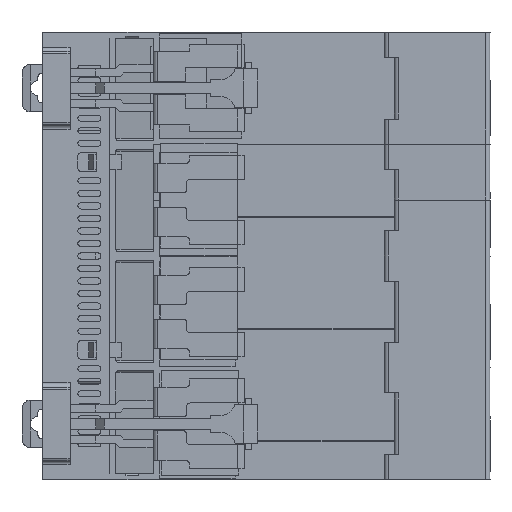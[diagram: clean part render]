
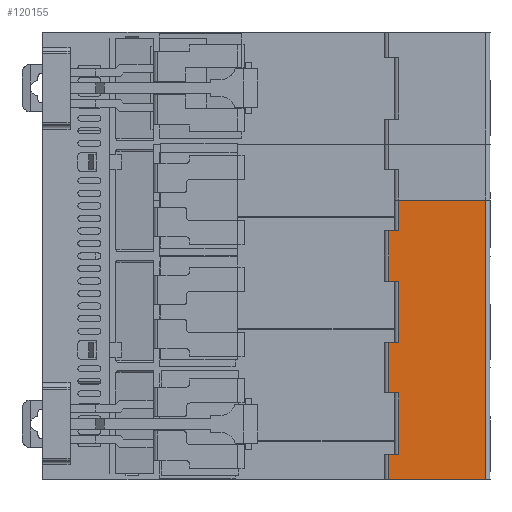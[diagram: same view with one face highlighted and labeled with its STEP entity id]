
A CAD part, front view. The second image highlights one B-rep face of the part: STEP entity #120155.
In plain terms, the highlighted planar face has unit normal (0, -1, 0).
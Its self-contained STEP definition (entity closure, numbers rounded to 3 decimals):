
#7026=DIRECTION('',(1.,0.,0.));
#7027=VECTOR('',#7026,2.4);
#7028=CARTESIAN_POINT('',(83.967,0.,-47.6));
#7029=LINE('',#7028,#7027);
#7030=DIRECTION('',(1.,0.,0.));
#7031=VECTOR('',#7030,20.9);
#7032=CARTESIAN_POINT('',(86.367,0.,-40.2));
#7033=LINE('',#7032,#7031);
#7034=DIRECTION('',(0.,0.,-1.));
#7035=VECTOR('',#7034,67.);
#7036=CARTESIAN_POINT('',(107.267,0.,-40.2));
#7037=LINE('',#7036,#7035);
#7038=DIRECTION('',(1.,0.,0.));
#7039=VECTOR('',#7038,2.4);
#7040=CARTESIAN_POINT('',(83.967,0.,-101.2));
#7041=LINE('',#7040,#7039);
#7042=DIRECTION('',(-1.,0.,0.));
#7043=VECTOR('',#7042,2.4);
#7044=CARTESIAN_POINT('',(86.367,0.,-86.4));
#7045=LINE('',#7044,#7043);
#7046=DIRECTION('',(1.,0.,0.));
#7047=VECTOR('',#7046,2.4);
#7048=CARTESIAN_POINT('',(83.967,0.,-74.4));
#7049=LINE('',#7048,#7047);
#7050=DIRECTION('',(-1.,0.,0.));
#7051=VECTOR('',#7050,2.4);
#7052=CARTESIAN_POINT('',(86.367,0.,-59.6));
#7053=LINE('',#7052,#7051);
#7054=DIRECTION('',(0.,0.,-1.));
#7055=VECTOR('',#7054,12.);
#7056=CARTESIAN_POINT('',(83.967,0.,-47.6));
#7057=LINE('',#7056,#7055);
#9094=DIRECTION('',(1.,0.,0.));
#9095=VECTOR('',#9094,23.3);
#9096=CARTESIAN_POINT('',(83.967,0.,-107.2));
#9097=LINE('',#9096,#9095);
#9197=DIRECTION('',(0.,0.,-1.));
#9198=VECTOR('',#9197,14.8);
#9199=CARTESIAN_POINT('',(86.367,0.,-86.4));
#9200=LINE('',#9199,#9198);
#9237=DIRECTION('',(0.,0.,-1.));
#9238=VECTOR('',#9237,14.8);
#9239=CARTESIAN_POINT('',(86.367,0.,-59.6));
#9240=LINE('',#9239,#9238);
#9255=DIRECTION('',(0.,0.,-1.));
#9256=VECTOR('',#9255,12.);
#9257=CARTESIAN_POINT('',(83.967,0.,-74.4));
#9258=LINE('',#9257,#9256);
#9275=DIRECTION('',(0.,0.,-1.));
#9276=VECTOR('',#9275,6.);
#9277=CARTESIAN_POINT('',(83.967,0.,-101.2));
#9278=LINE('',#9277,#9276);
#74659=DIRECTION('',(0.,0.,-1.));
#74660=VECTOR('',#74659,7.4);
#74661=CARTESIAN_POINT('',(86.367,0.,-40.2));
#74662=LINE('',#74661,#74660);
#98654=CARTESIAN_POINT('',(86.367,0.,-101.2));
#98655=VERTEX_POINT('',#98654);
#98656=CARTESIAN_POINT('',(83.967,0.,-107.2));
#98657=CARTESIAN_POINT('',(107.267,0.,-107.2));
#98658=VERTEX_POINT('',#98656);
#98659=VERTEX_POINT('',#98657);
#98660=CARTESIAN_POINT('',(83.967,0.,-101.2));
#98661=VERTEX_POINT('',#98660);
#102671=CARTESIAN_POINT('',(86.367,0.,-86.4));
#102672=CARTESIAN_POINT('',(83.967,0.,-86.4));
#102673=VERTEX_POINT('',#102671);
#102674=VERTEX_POINT('',#102672);
#104146=CARTESIAN_POINT('',(83.967,0.,-74.4));
#104147=CARTESIAN_POINT('',(86.367,0.,-74.4));
#104148=VERTEX_POINT('',#104146);
#104149=VERTEX_POINT('',#104147);
#106538=CARTESIAN_POINT('',(86.367,0.,-59.6));
#106539=CARTESIAN_POINT('',(83.967,0.,-59.6));
#106540=VERTEX_POINT('',#106538);
#106541=VERTEX_POINT('',#106539);
#107734=CARTESIAN_POINT('',(107.267,0.,-40.2));
#107735=VERTEX_POINT('',#107734);
#107736=CARTESIAN_POINT('',(86.367,0.,-40.2));
#107737=VERTEX_POINT('',#107736);
#108410=CARTESIAN_POINT('',(83.967,0.,-47.6));
#108411=CARTESIAN_POINT('',(86.367,0.,-47.6));
#108412=VERTEX_POINT('',#108410);
#108413=VERTEX_POINT('',#108411);
#120121=CARTESIAN_POINT('',(85.367,0.,-93.8));
#120122=DIRECTION('',(0.,-1.,0.));
#120123=DIRECTION('',(1.,0.,0.));
#120124=AXIS2_PLACEMENT_3D('',#120121,#120122,#120123);
#120125=PLANE('',#120124);
#120127=ORIENTED_EDGE('',*,*,#120126,.F.);
#120129=ORIENTED_EDGE('',*,*,#120128,.T.);
#120131=ORIENTED_EDGE('',*,*,#120130,.F.);
#120133=ORIENTED_EDGE('',*,*,#120132,.T.);
#120134=ORIENTED_EDGE('',*,*,#120111,.T.);
#120136=ORIENTED_EDGE('',*,*,#120135,.F.);
#120138=ORIENTED_EDGE('',*,*,#120137,.F.);
#120140=ORIENTED_EDGE('',*,*,#120139,.T.);
#120142=ORIENTED_EDGE('',*,*,#120141,.F.);
#120144=ORIENTED_EDGE('',*,*,#120143,.T.);
#120146=ORIENTED_EDGE('',*,*,#120145,.F.);
#120148=ORIENTED_EDGE('',*,*,#120147,.T.);
#120150=ORIENTED_EDGE('',*,*,#120149,.F.);
#120152=ORIENTED_EDGE('',*,*,#120151,.T.);
#120153=EDGE_LOOP('',(#120127,#120129,#120131,#120133,#120134,#120136,#120138,
#120140,#120142,#120144,#120146,#120148,#120150,#120152));
#120154=FACE_OUTER_BOUND('',#120153,.F.);
#120155=ADVANCED_FACE('',(#120154),#120125,.T.);
#120111=EDGE_CURVE('',#107735,#98659,#7037,.T.);
#120126=EDGE_CURVE('',#108412,#106541,#7057,.T.);
#120128=EDGE_CURVE('',#108412,#108413,#7029,.T.);
#120130=EDGE_CURVE('',#107737,#108413,#74662,.T.);
#120132=EDGE_CURVE('',#107737,#107735,#7033,.T.);
#120135=EDGE_CURVE('',#98658,#98659,#9097,.T.);
#120137=EDGE_CURVE('',#98661,#98658,#9278,.T.);
#120139=EDGE_CURVE('',#98661,#98655,#7041,.T.);
#120141=EDGE_CURVE('',#102673,#98655,#9200,.T.);
#120143=EDGE_CURVE('',#102673,#102674,#7045,.T.);
#120145=EDGE_CURVE('',#104148,#102674,#9258,.T.);
#120147=EDGE_CURVE('',#104148,#104149,#7049,.T.);
#120149=EDGE_CURVE('',#106540,#104149,#9240,.T.);
#120151=EDGE_CURVE('',#106540,#106541,#7053,.T.);
